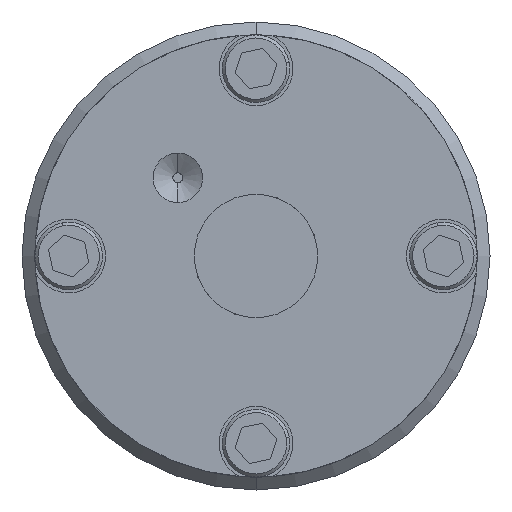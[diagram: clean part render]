
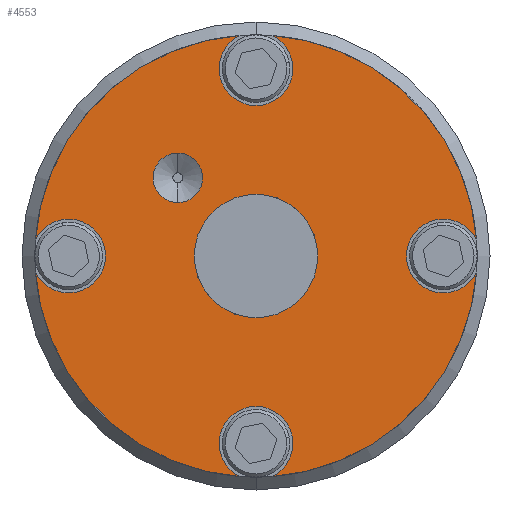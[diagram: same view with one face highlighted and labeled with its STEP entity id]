
A CAD part, front view. The second image highlights one B-rep face of the part: STEP entity #4553.
In plain terms, the highlighted planar face has unit normal (0, -1, 0).
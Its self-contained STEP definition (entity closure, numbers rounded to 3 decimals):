
#2935=CARTESIAN_POINT('',(-6.364,-70.,-6.364));
#2936=DIRECTION('',(0.,1.,0.));
#2937=DIRECTION('',(1.,0.,0.));
#2938=AXIS2_PLACEMENT_3D('',#2935,#2936,#2937);
#2943=CARTESIAN_POINT('',(-6.364,-70.,-6.364));
#2944=DIRECTION('',(0.,1.,0.));
#2945=DIRECTION('',(-1.,0.,0.));
#2946=AXIS2_PLACEMENT_3D('',#2943,#2944,#2945);
#2951=CARTESIAN_POINT('',(0.,-70.,0.));
#2952=DIRECTION('',(0.,1.,0.));
#2953=DIRECTION('',(1.,0.,0.));
#2954=AXIS2_PLACEMENT_3D('',#2951,#2952,#2953);
#2959=CARTESIAN_POINT('',(0.,-70.,0.));
#2960=DIRECTION('',(0.,1.,0.));
#2961=DIRECTION('',(-1.,0.,0.));
#2962=AXIS2_PLACEMENT_3D('',#2959,#2960,#2961);
#2967=CARTESIAN_POINT('',(-15.25,-70.,0.));
#2968=DIRECTION('',(0.,1.,0.));
#2969=DIRECTION('',(-0.901,0.,0.434));
#2970=AXIS2_PLACEMENT_3D('',#2967,#2968,#2969);
#2975=CARTESIAN_POINT('',(0.,-70.,0.));
#2976=DIRECTION('',(0.,-1.,0.));
#2977=DIRECTION('',(-0.072,0.,0.997));
#2978=AXIS2_PLACEMENT_3D('',#2975,#2976,#2977);
#2983=CARTESIAN_POINT('',(0.,-70.,15.25));
#2984=DIRECTION('',(0.,1.,0.));
#2985=DIRECTION('',(-1.,0.,0.));
#2986=AXIS2_PLACEMENT_3D('',#2983,#2984,#2985);
#2991=CARTESIAN_POINT('',(0.,-70.,15.25));
#2992=DIRECTION('',(0.,1.,0.));
#2993=DIRECTION('',(1.,0.,0.));
#2994=AXIS2_PLACEMENT_3D('',#2991,#2992,#2993);
#2999=CARTESIAN_POINT('',(0.,-70.,15.25));
#3000=DIRECTION('',(0.,1.,0.));
#3001=DIRECTION('',(0.434,0.,0.901));
#3002=AXIS2_PLACEMENT_3D('',#2999,#3000,#3001);
#3007=CARTESIAN_POINT('',(0.,-70.,0.));
#3008=DIRECTION('',(0.,-1.,0.));
#3009=DIRECTION('',(0.997,0.,0.072));
#3010=AXIS2_PLACEMENT_3D('',#3007,#3008,#3009);
#3015=CARTESIAN_POINT('',(15.25,-70.,0.));
#3016=DIRECTION('',(0.,1.,0.));
#3017=DIRECTION('',(-1.,0.,0.));
#3018=AXIS2_PLACEMENT_3D('',#3015,#3016,#3017);
#3023=CARTESIAN_POINT('',(15.25,-70.,0.));
#3024=DIRECTION('',(0.,1.,0.));
#3025=DIRECTION('',(0.901,0.,-0.434));
#3026=AXIS2_PLACEMENT_3D('',#3023,#3024,#3025);
#3031=CARTESIAN_POINT('',(0.,-70.,0.));
#3032=DIRECTION('',(0.,-1.,0.));
#3033=DIRECTION('',(0.072,0.,-0.997));
#3034=AXIS2_PLACEMENT_3D('',#3031,#3032,#3033);
#3039=CARTESIAN_POINT('',(0.,-70.,-15.25));
#3040=DIRECTION('',(0.,1.,0.));
#3041=DIRECTION('',(1.,0.,0.));
#3042=AXIS2_PLACEMENT_3D('',#3039,#3040,#3041);
#3047=CARTESIAN_POINT('',(0.,-70.,-15.25));
#3048=DIRECTION('',(0.,1.,0.));
#3049=DIRECTION('',(-1.,0.,0.));
#3050=AXIS2_PLACEMENT_3D('',#3047,#3048,#3049);
#3055=CARTESIAN_POINT('',(0.,-70.,-15.25));
#3056=DIRECTION('',(0.,1.,0.));
#3057=DIRECTION('',(-0.434,0.,-0.901));
#3058=AXIS2_PLACEMENT_3D('',#3055,#3056,#3057);
#3063=CARTESIAN_POINT('',(0.,-70.,0.));
#3064=DIRECTION('',(0.,-1.,0.));
#3065=DIRECTION('',(-0.997,0.,-0.072));
#3066=AXIS2_PLACEMENT_3D('',#3063,#3064,#3065);
#3071=CARTESIAN_POINT('',(-15.25,-70.,0.));
#3072=DIRECTION('',(0.,1.,0.));
#3073=DIRECTION('',(1.,0.,0.));
#3074=AXIS2_PLACEMENT_3D('',#3071,#3072,#3073);
#4242=CARTESIAN_POINT('',(-4.345,-70.,-6.364));
#4243=VERTEX_POINT('',#4242);
#4244=CARTESIAN_POINT('',(-8.383,-70.,-6.364));
#4245=VERTEX_POINT('',#4244);
#4270=CARTESIAN_POINT('',(3.,-70.,15.25));
#4271=VERTEX_POINT('',#4270);
#4272=CARTESIAN_POINT('',(1.302,-70.,17.953));
#4273=VERTEX_POINT('',#4272);
#4288=CARTESIAN_POINT('',(-3.,-70.,15.25));
#4289=VERTEX_POINT('',#4288);
#4308=CARTESIAN_POINT('',(17.953,-70.,1.302));
#4309=VERTEX_POINT('',#4308);
#4310=CARTESIAN_POINT('',(5.025,-70.,0.));
#4311=CARTESIAN_POINT('',(-5.025,-70.,0.));
#4312=VERTEX_POINT('',#4310);
#4313=VERTEX_POINT('',#4311);
#4322=CARTESIAN_POINT('',(12.25,-70.,0.));
#4323=VERTEX_POINT('',#4322);
#4324=CARTESIAN_POINT('',(17.953,-70.,-1.302));
#4325=VERTEX_POINT('',#4324);
#4326=CARTESIAN_POINT('',(-1.302,-70.,17.953));
#4327=VERTEX_POINT('',#4326);
#4336=CARTESIAN_POINT('',(-12.25,-70.,0.));
#4337=CARTESIAN_POINT('',(-17.953,-70.,-1.302));
#4338=VERTEX_POINT('',#4336);
#4339=VERTEX_POINT('',#4337);
#4340=CARTESIAN_POINT('',(-17.953,-70.,1.302));
#4341=VERTEX_POINT('',#4340);
#4360=CARTESIAN_POINT('',(-1.302,-70.,-17.953));
#4361=VERTEX_POINT('',#4360);
#4374=CARTESIAN_POINT('',(3.,-70.,-15.25));
#4375=VERTEX_POINT('',#4374);
#4376=CARTESIAN_POINT('',(-3.,-70.,-15.25));
#4377=VERTEX_POINT('',#4376);
#4378=CARTESIAN_POINT('',(1.302,-70.,-17.953));
#4379=VERTEX_POINT('',#4378);
#4508=CARTESIAN_POINT('',(0.,-70.,0.));
#4509=DIRECTION('',(0.,1.,0.));
#4510=DIRECTION('',(1.,0.,0.));
#4511=AXIS2_PLACEMENT_3D('',#4508,#4509,#4510);
#4512=PLANE('',#4511);
#4514=ORIENTED_EDGE('',*,*,#4513,.F.);
#4516=ORIENTED_EDGE('',*,*,#4515,.F.);
#4518=ORIENTED_EDGE('',*,*,#4517,.F.);
#4520=ORIENTED_EDGE('',*,*,#4519,.F.);
#4522=ORIENTED_EDGE('',*,*,#4521,.F.);
#4524=ORIENTED_EDGE('',*,*,#4523,.F.);
#4526=ORIENTED_EDGE('',*,*,#4525,.F.);
#4528=ORIENTED_EDGE('',*,*,#4527,.F.);
#4530=ORIENTED_EDGE('',*,*,#4529,.F.);
#4532=ORIENTED_EDGE('',*,*,#4531,.F.);
#4534=ORIENTED_EDGE('',*,*,#4533,.F.);
#4536=ORIENTED_EDGE('',*,*,#4535,.F.);
#4538=ORIENTED_EDGE('',*,*,#4537,.F.);
#4540=ORIENTED_EDGE('',*,*,#4539,.F.);
#4541=EDGE_LOOP('',(#4514,#4516,#4518,#4520,#4522,#4524,#4526,#4528,#4530,#4532,
#4534,#4536,#4538,#4540));
#4542=FACE_OUTER_BOUND('',#4541,.F.);
#4544=ORIENTED_EDGE('',*,*,#4543,.F.);
#4546=ORIENTED_EDGE('',*,*,#4545,.F.);
#4547=EDGE_LOOP('',(#4544,#4546));
#4548=FACE_BOUND('',#4547,.F.);
#4549=ORIENTED_EDGE('',*,*,#4501,.F.);
#4550=ORIENTED_EDGE('',*,*,#4488,.F.);
#4551=EDGE_LOOP('',(#4549,#4550));
#4552=FACE_BOUND('',#4551,.F.);
#2939=CIRCLE('',#2938,2.019);
#2947=CIRCLE('',#2946,2.019);
#2955=CIRCLE('',#2954,5.025);
#2963=CIRCLE('',#2962,5.025);
#2971=CIRCLE('',#2970,3.);
#2979=CIRCLE('',#2978,18.);
#2987=CIRCLE('',#2986,3.);
#2995=CIRCLE('',#2994,3.);
#3003=CIRCLE('',#3002,3.);
#3011=CIRCLE('',#3010,18.);
#3019=CIRCLE('',#3018,3.);
#3027=CIRCLE('',#3026,3.);
#3035=CIRCLE('',#3034,18.);
#3043=CIRCLE('',#3042,3.);
#3051=CIRCLE('',#3050,3.);
#3059=CIRCLE('',#3058,3.);
#3067=CIRCLE('',#3066,18.);
#3075=CIRCLE('',#3074,3.);
#4488=EDGE_CURVE('',#4245,#4243,#2947,.T.);
#4501=EDGE_CURVE('',#4243,#4245,#2939,.T.);
#4513=EDGE_CURVE('',#4341,#4338,#2971,.T.);
#4515=EDGE_CURVE('',#4327,#4341,#2979,.T.);
#4517=EDGE_CURVE('',#4289,#4327,#2987,.T.);
#4519=EDGE_CURVE('',#4271,#4289,#2995,.T.);
#4521=EDGE_CURVE('',#4273,#4271,#3003,.T.);
#4523=EDGE_CURVE('',#4309,#4273,#3011,.T.);
#4525=EDGE_CURVE('',#4323,#4309,#3019,.T.);
#4527=EDGE_CURVE('',#4325,#4323,#3027,.T.);
#4529=EDGE_CURVE('',#4379,#4325,#3035,.T.);
#4531=EDGE_CURVE('',#4375,#4379,#3043,.T.);
#4533=EDGE_CURVE('',#4377,#4375,#3051,.T.);
#4535=EDGE_CURVE('',#4361,#4377,#3059,.T.);
#4537=EDGE_CURVE('',#4339,#4361,#3067,.T.);
#4539=EDGE_CURVE('',#4338,#4339,#3075,.T.);
#4543=EDGE_CURVE('',#4312,#4313,#2955,.T.);
#4545=EDGE_CURVE('',#4313,#4312,#2963,.T.);
#4553=ADVANCED_FACE('',(#4542,#4548,#4552),#4512,.F.);
